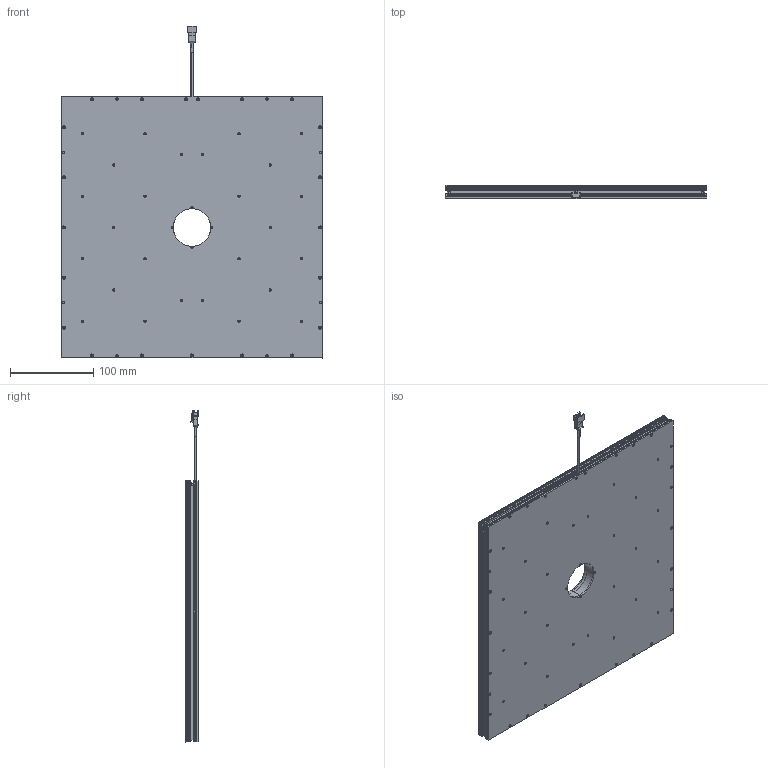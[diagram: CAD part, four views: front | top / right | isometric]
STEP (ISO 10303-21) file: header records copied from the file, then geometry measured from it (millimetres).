
FILE_DESCRIPTION (( 'STEP AP214' ), '1' );
FILE_NAME ('TMDF3019D102A_VDFHP-300300.STEP', '2023-04-14T05:17:32', ( '' ), ( '' ), 'SwSTEP 2.0', 'SolidWorks 2018', '' );
FILE_SCHEMA (( 'AUTOMOTIVE_DESIGN' ));
Length unit declared in the file: millimetre
Products named in the file (1): TMDF3019D102A_VDFHP-300300
Bounding box: 313 x 16.55 x 398.11 mm (x, y, z)
Surface area: 347482.5 mm2 (no closed solid volume)
Topology: 0 solids, 66 shells, 802 faces, 3115 edges, 2350 vertices
Faces by surface type: plane 434, cylinder 254, cone 112, bspline 2
Entity records: 42994 total; most frequent: CARTESIAN_POINT 7833, DIRECTION 5472, ORIENTED_EDGE 4659, EDGE_CURVE 3115, VERTEX_POINT 2350, VECTOR 2186, LINE 2186, AXIS2_PLACEMENT_3D 1643
